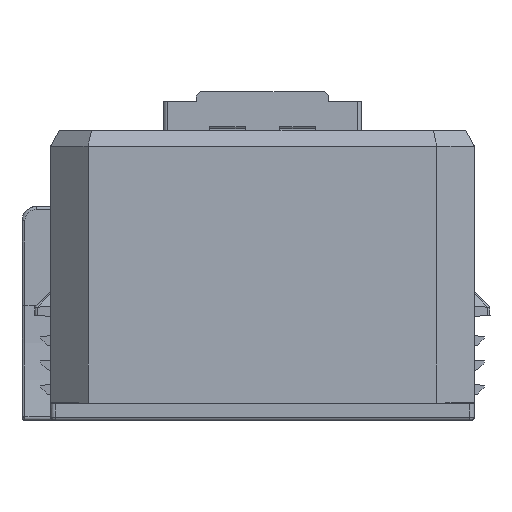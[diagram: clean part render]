
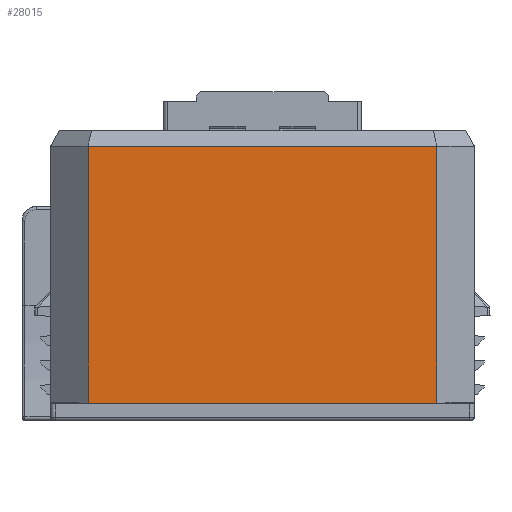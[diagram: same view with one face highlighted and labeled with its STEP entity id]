
A CAD part, front view. The second image highlights one B-rep face of the part: STEP entity #28015.
In plain terms, the highlighted planar face has unit normal (0, -1, 0).
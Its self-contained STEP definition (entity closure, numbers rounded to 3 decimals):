
#746=DIRECTION('',(0.,0.,1.));
#747=VECTOR('',#746,17.9);
#748=CARTESIAN_POINT('',(12.15,-26.,1.2));
#749=LINE('',#748,#747);
#774=DIRECTION('',(1.,0.,0.));
#775=VECTOR('',#774,24.3);
#776=CARTESIAN_POINT('',(-12.15,-26.,1.2));
#777=LINE('',#776,#775);
#4176=DIRECTION('',(-1.,0.,0.));
#4177=VECTOR('',#4176,24.3);
#4178=CARTESIAN_POINT('',(12.15,-26.,19.1));
#4179=LINE('',#4178,#4177);
#4184=DIRECTION('',(0.,0.,1.));
#4185=VECTOR('',#4184,17.9);
#4186=CARTESIAN_POINT('',(-12.15,-26.,1.2));
#4187=LINE('',#4186,#4185);
#15263=CARTESIAN_POINT('',(12.15,-26.,19.1));
#15264=VERTEX_POINT('',#15263);
#15267=CARTESIAN_POINT('',(12.15,-26.,1.2));
#15268=VERTEX_POINT('',#15267);
#15275=CARTESIAN_POINT('',(-12.15,-26.,1.2));
#15276=VERTEX_POINT('',#15275);
#18783=CARTESIAN_POINT('',(-12.15,-26.,19.1));
#18784=VERTEX_POINT('',#18783);
#28003=CARTESIAN_POINT('',(-14.75,-26.,0.));
#28004=DIRECTION('',(0.,-1.,0.));
#28005=DIRECTION('',(1.,0.,0.));
#28006=AXIS2_PLACEMENT_3D('',#28003,#28004,#28005);
#28007=PLANE('',#28006);
#28008=ORIENTED_EDGE('',*,*,#20165,.F.);
#28009=ORIENTED_EDGE('',*,*,#20195,.F.);
#28011=ORIENTED_EDGE('',*,*,#28010,.T.);
#28012=ORIENTED_EDGE('',*,*,#27987,.F.);
#28013=EDGE_LOOP('',(#28008,#28009,#28011,#28012));
#28014=FACE_OUTER_BOUND('',#28013,.F.);
#28015=ADVANCED_FACE('',(#28014),#28007,.T.);
#20165=EDGE_CURVE('',#15268,#15264,#749,.T.);
#20195=EDGE_CURVE('',#15276,#15268,#777,.T.);
#27987=EDGE_CURVE('',#15264,#18784,#4179,.T.);
#28010=EDGE_CURVE('',#15276,#18784,#4187,.T.);
